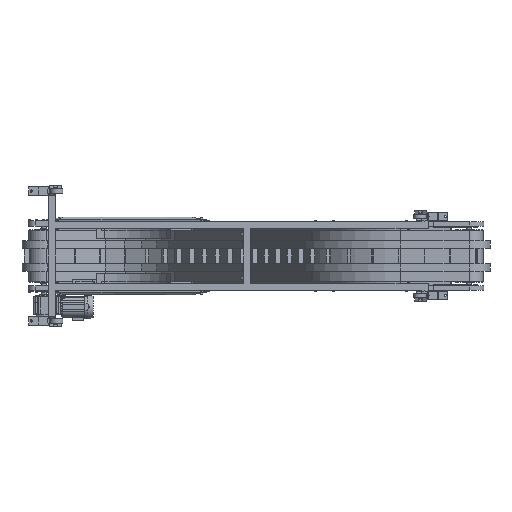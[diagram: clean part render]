
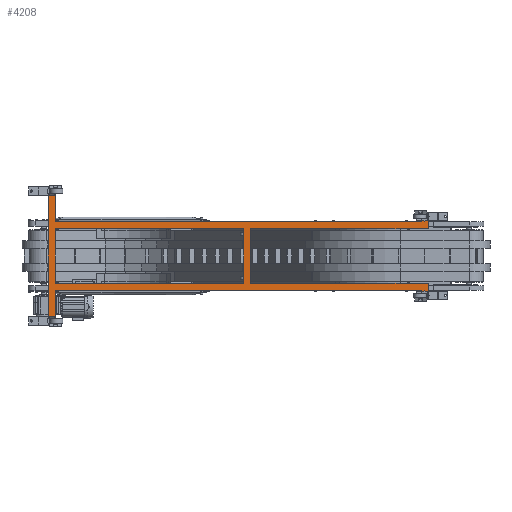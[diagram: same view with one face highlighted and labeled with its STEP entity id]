
A CAD part, front view. The second image highlights one B-rep face of the part: STEP entity #4208.
In plain terms, the highlighted planar face has unit normal (0, -1, 0).
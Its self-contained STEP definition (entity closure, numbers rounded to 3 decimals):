
#4208=ADVANCED_FACE('',(#30167,#30168),#30166,.F.);
#30166=PLANE('',#46096);
#30167=FACE_OUTER_BOUND('',#46097,.T.);
#30168=FACE_BOUND('',#46098,.T.);
#46093=CARTESIAN_POINT('',(2346.025,-2264.256,-410.));
#46094=DIRECTION('',(0.,1.,0.));
#46095=DIRECTION('',(-1.,0.,0.));
#46096=AXIS2_PLACEMENT_3D('',#46093,#46094,#46095);
#46097=EDGE_LOOP('',(#60144,#60145,#60146,#60147,#60148,#60149,#60150,#60151,#60152,#60153,#60154,#60155,#60156,#60157,#60158,#60159));
#46098=EDGE_LOOP('',(#60160,#60161,#60162,#60163));
#60144=ORIENTED_EDGE('',*,*,#67798,.T.);
#60145=ORIENTED_EDGE('',*,*,#67756,.T.);
#60146=ORIENTED_EDGE('',*,*,#67769,.F.);
#60147=ORIENTED_EDGE('',*,*,#67799,.F.);
#60148=ORIENTED_EDGE('',*,*,#67800,.F.);
#60149=ORIENTED_EDGE('',*,*,#67801,.T.);
#60150=ORIENTED_EDGE('',*,*,#67776,.T.);
#60151=ORIENTED_EDGE('',*,*,#67797,.F.);
#60152=ORIENTED_EDGE('',*,*,#67778,.F.);
#60153=ORIENTED_EDGE('',*,*,#67802,.T.);
#60154=ORIENTED_EDGE('',*,*,#67784,.T.);
#60155=ORIENTED_EDGE('',*,*,#67803,.F.);
#60156=ORIENTED_EDGE('',*,*,#67804,.F.);
#60157=ORIENTED_EDGE('',*,*,#67805,.F.);
#60158=ORIENTED_EDGE('',*,*,#67764,.T.);
#60159=ORIENTED_EDGE('',*,*,#67806,.F.);
#60160=ORIENTED_EDGE('',*,*,#67762,.F.);
#60161=ORIENTED_EDGE('',*,*,#67807,.T.);
#60162=ORIENTED_EDGE('',*,*,#67808,.F.);
#60163=ORIENTED_EDGE('',*,*,#67770,.F.);
#67756=EDGE_CURVE('',#110707,#110700,#110708,.T.);
#67762=EDGE_CURVE('',#110742,#110727,#110749,.T.);
#67764=EDGE_CURVE('',#110763,#110755,#110764,.T.);
#67769=EDGE_CURVE('',#110790,#110700,#110797,.T.);
#67770=EDGE_CURVE('',#110727,#110803,#110804,.T.);
#67776=EDGE_CURVE('',#110824,#110838,#110845,.T.);
#67778=EDGE_CURVE('',#110852,#110859,#110860,.T.);
#67784=EDGE_CURVE('',#110880,#110894,#110901,.T.);
#67797=EDGE_CURVE('',#110859,#110838,#110985,.T.);
#67798=EDGE_CURVE('',#110991,#110707,#110992,.T.);
#67799=EDGE_CURVE('',#110998,#110790,#110999,.T.);
#67800=EDGE_CURVE('',#111005,#110998,#111006,.T.);
#67801=EDGE_CURVE('',#111005,#110824,#111012,.T.);
#67802=EDGE_CURVE('',#110852,#110880,#111018,.T.);
#67803=EDGE_CURVE('',#111024,#110894,#111025,.T.);
#67804=EDGE_CURVE('',#111031,#111024,#111032,.T.);
#67805=EDGE_CURVE('',#110763,#111031,#111038,.T.);
#67806=EDGE_CURVE('',#110991,#110755,#111044,.T.);
#67807=EDGE_CURVE('',#110742,#111050,#111051,.T.);
#67808=EDGE_CURVE('',#110803,#111050,#111057,.T.);
#110700=VERTEX_POINT('',#139371);
#110707=VERTEX_POINT('',#139375);
#110708=LINE('',#139376,#139377);
#110727=VERTEX_POINT('',#139386);
#110742=VERTEX_POINT('',#139395);
#110749=LINE('',#139399,#139400);
#110755=VERTEX_POINT('',#139402);
#110763=VERTEX_POINT('',#139407);
#110764=LINE('',#139408,#139409);
#110790=VERTEX_POINT('',#139422);
#110797=LINE('',#139426,#139427);
#110803=VERTEX_POINT('',#139429);
#110804=LINE('',#139430,#139431);
#110824=VERTEX_POINT('',#139441);
#110838=VERTEX_POINT('',#139449);
#110845=LINE('',#139453,#139454);
#110852=VERTEX_POINT('',#139457);
#110859=VERTEX_POINT('',#139461);
#110860=LINE('',#139462,#139463);
#110880=VERTEX_POINT('',#139473);
#110894=VERTEX_POINT('',#139481);
#110901=LINE('',#139485,#139486);
#110985=LINE('',#139530,#139531);
#110991=VERTEX_POINT('',#139533);
#110992=LINE('',#139534,#139535);
#110998=VERTEX_POINT('',#139537);
#110999=LINE('',#139538,#139539);
#111005=VERTEX_POINT('',#139541);
#111006=LINE('',#139542,#139543);
#111012=LINE('',#139545,#139546);
#111018=LINE('',#139548,#139549);
#111024=VERTEX_POINT('',#139551);
#111025=LINE('',#139552,#139553);
#111031=VERTEX_POINT('',#139555);
#111032=LINE('',#139556,#139557);
#111038=LINE('',#139559,#139560);
#111044=LINE('',#139562,#139563);
#111050=VERTEX_POINT('',#139565);
#111051=LINE('',#139566,#139567);
#111057=LINE('',#139569,#139570);
#139371=CARTESIAN_POINT('',(1296.025,-2264.256,160.));
#139375=CARTESIAN_POINT('',(1296.025,-2264.256,-160.));
#139376=CARTESIAN_POINT('',(1296.025,-2264.256,-160.));
#139377=VECTOR('',#139378,320.);
#139378=DIRECTION('',(0.,0.,1.));
#139386=CARTESIAN_POINT('',(1256.025,-2264.256,160.));
#139395=CARTESIAN_POINT('',(1256.025,-2264.256,-160.));
#139399=CARTESIAN_POINT('',(1256.025,-2264.256,-160.));
#139400=VECTOR('',#139401,320.);
#139401=DIRECTION('',(0.,0.,1.));
#139402=CARTESIAN_POINT('',(2336.025,-2264.256,-250.));
#139407=CARTESIAN_POINT('',(2296.025,-2264.256,-250.));
#139408=CARTESIAN_POINT('',(2296.025,-2264.256,-250.));
#139409=VECTOR('',#139410,40.);
#139410=DIRECTION('',(1.,0.,0.));
#139422=CARTESIAN_POINT('',(2336.025,-2264.256,160.));
#139426=CARTESIAN_POINT('',(2336.025,-2264.256,160.));
#139427=VECTOR('',#139428,1040.);
#139428=DIRECTION('',(-1.,0.,0.));
#139429=CARTESIAN_POINT('',(153.025,-2264.256,160.));
#139430=CARTESIAN_POINT('',(1256.025,-2264.256,160.));
#139431=VECTOR('',#139432,1103.);
#139432=DIRECTION('',(-1.,0.,0.));
#139441=CARTESIAN_POINT('',(2296.025,-2264.256,200.));
#139449=CARTESIAN_POINT('',(153.025,-2264.256,200.));
#139453=CARTESIAN_POINT('',(2296.025,-2264.256,200.));
#139454=VECTOR('',#139455,2143.);
#139455=DIRECTION('',(-1.,0.,0.));
#139457=CARTESIAN_POINT('',(113.025,-2264.256,400.));
#139461=CARTESIAN_POINT('',(153.025,-2264.256,400.));
#139462=CARTESIAN_POINT('',(113.025,-2264.256,400.));
#139463=VECTOR('',#139464,40.);
#139464=DIRECTION('',(1.,0.,0.));
#139473=CARTESIAN_POINT('',(113.025,-2264.256,-400.));
#139481=CARTESIAN_POINT('',(153.025,-2264.256,-400.));
#139485=CARTESIAN_POINT('',(113.025,-2264.256,-400.));
#139486=VECTOR('',#139487,40.);
#139487=DIRECTION('',(1.,0.,0.));
#139530=CARTESIAN_POINT('',(153.025,-2264.256,400.));
#139531=VECTOR('',#139532,200.);
#139532=DIRECTION('',(0.,0.,-1.));
#139533=CARTESIAN_POINT('',(2336.025,-2264.256,-160.));
#139534=CARTESIAN_POINT('',(2336.025,-2264.256,-160.));
#139535=VECTOR('',#139536,1040.);
#139536=DIRECTION('',(-1.,0.,0.));
#139537=CARTESIAN_POINT('',(2336.025,-2264.256,250.));
#139538=CARTESIAN_POINT('',(2336.025,-2264.256,250.));
#139539=VECTOR('',#139540,90.);
#139540=DIRECTION('',(0.,0.,-1.));
#139541=CARTESIAN_POINT('',(2296.025,-2264.256,250.));
#139542=CARTESIAN_POINT('',(2296.025,-2264.256,250.));
#139543=VECTOR('',#139544,40.);
#139544=DIRECTION('',(1.,0.,0.));
#139545=CARTESIAN_POINT('',(2296.025,-2264.256,250.));
#139546=VECTOR('',#139547,50.);
#139547=DIRECTION('',(0.,0.,-1.));
#139548=CARTESIAN_POINT('',(113.025,-2264.256,400.));
#139549=VECTOR('',#139550,800.);
#139550=DIRECTION('',(0.,0.,-1.));
#139551=CARTESIAN_POINT('',(153.025,-2264.256,-200.));
#139552=CARTESIAN_POINT('',(153.025,-2264.256,-200.));
#139553=VECTOR('',#139554,200.);
#139554=DIRECTION('',(0.,0.,-1.));
#139555=CARTESIAN_POINT('',(2296.025,-2264.256,-200.));
#139556=CARTESIAN_POINT('',(2296.025,-2264.256,-200.));
#139557=VECTOR('',#139558,2143.);
#139558=DIRECTION('',(-1.,0.,0.));
#139559=CARTESIAN_POINT('',(2296.025,-2264.256,-250.));
#139560=VECTOR('',#139561,50.);
#139561=DIRECTION('',(0.,0.,1.));
#139562=CARTESIAN_POINT('',(2336.025,-2264.256,-160.));
#139563=VECTOR('',#139564,90.);
#139564=DIRECTION('',(0.,0.,-1.));
#139565=CARTESIAN_POINT('',(153.025,-2264.256,-160.));
#139566=CARTESIAN_POINT('',(1256.025,-2264.256,-160.));
#139567=VECTOR('',#139568,1103.);
#139568=DIRECTION('',(-1.,0.,0.));
#139569=CARTESIAN_POINT('',(153.025,-2264.256,160.));
#139570=VECTOR('',#139571,320.);
#139571=DIRECTION('',(0.,0.,-1.));
